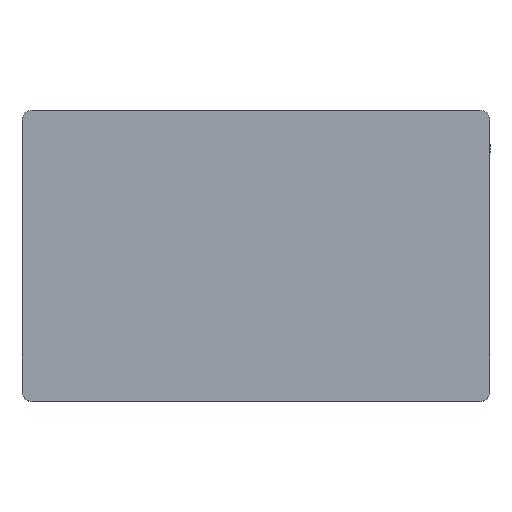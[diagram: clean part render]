
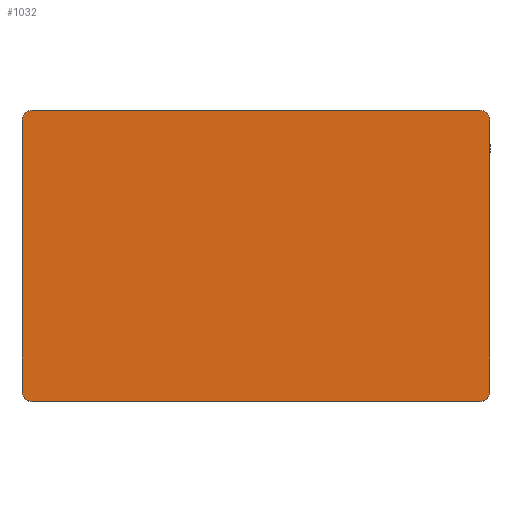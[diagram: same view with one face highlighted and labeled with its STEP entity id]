
A CAD part, top view. The second image highlights one B-rep face of the part: STEP entity #1032.
In plain terms, the highlighted planar face has unit normal (0, 0, 1).
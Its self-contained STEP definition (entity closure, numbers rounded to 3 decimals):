
#897=CARTESIAN_POINT('',(22.5,-13.0,16.5));
#898=VERTEX_POINT('',#897);
#899=CARTESIAN_POINT('',(21.5,-14.,16.5));
#900=VERTEX_POINT('',#899);
#901=CARTESIAN_POINT('',(21.5,-13.0,16.5));
#902=DIRECTION('',(0.0,0.0,-1.0));
#903=DIRECTION('',(0.707,-0.707,0.0));
#904=AXIS2_PLACEMENT_3D('',#901,#902,#903);
#905=CIRCLE('',#904,1.0);
#906=EDGE_CURVE('',#898,#900,#905,.T.);
#940=CARTESIAN_POINT('',(-21.5,-14.,16.5));
#941=VERTEX_POINT('',#940);
#942=CARTESIAN_POINT('',(-21.5,-14.,16.5));
#943=DIRECTION('',(1.0,0.0,0.0));
#944=VECTOR('',#943,43.0);
#945=LINE('',#942,#944);
#946=EDGE_CURVE('',#941,#900,#945,.T.);
#974=CARTESIAN_POINT('',(0.0,0.,16.5));
#975=DIRECTION('',(0.0,0.0,1.0));
#976=DIRECTION('',(1.0,0.0,0.0));
#977=AXIS2_PLACEMENT_3D('',#974,#975,#976);
#978=PLANE('',#977);
#979=ORIENTED_EDGE('',*,*,#906,.F.);
#980=CARTESIAN_POINT('',(22.5,13.,16.5));
#981=VERTEX_POINT('',#980);
#982=CARTESIAN_POINT('',(22.5,-13.0,16.5));
#983=DIRECTION('',(0.0,1.0,0.0));
#984=VECTOR('',#983,26.);
#985=LINE('',#982,#984);
#986=EDGE_CURVE('',#898,#981,#985,.T.);
#987=ORIENTED_EDGE('',*,*,#986,.T.);
#988=CARTESIAN_POINT('',(21.5,14.,16.5));
#989=VERTEX_POINT('',#988);
#990=CARTESIAN_POINT('',(21.5,13.,16.5));
#991=DIRECTION('',(0.0,0.0,-1.0));
#992=DIRECTION('',(0.707,0.707,0.0));
#993=AXIS2_PLACEMENT_3D('',#990,#991,#992);
#994=CIRCLE('',#993,1.0);
#995=EDGE_CURVE('',#989,#981,#994,.T.);
#996=ORIENTED_EDGE('',*,*,#995,.F.);
#997=CARTESIAN_POINT('',(-21.5,14.,16.5));
#998=VERTEX_POINT('',#997);
#999=CARTESIAN_POINT('',(21.5,14.,16.5));
#1000=DIRECTION('',(-1.0,0.0,0.0));
#1001=VECTOR('',#1000,43.);
#1002=LINE('',#999,#1001);
#1003=EDGE_CURVE('',#989,#998,#1002,.T.);
#1004=ORIENTED_EDGE('',*,*,#1003,.T.);
#1005=CARTESIAN_POINT('',(-22.5,13.0,16.5));
#1006=VERTEX_POINT('',#1005);
#1007=CARTESIAN_POINT('',(-21.5,13.0,16.5));
#1008=DIRECTION('',(0.0,0.0,-1.0));
#1009=DIRECTION('',(-0.707,0.707,0.0));
#1010=AXIS2_PLACEMENT_3D('',#1007,#1008,#1009);
#1011=CIRCLE('',#1010,1.0);
#1012=EDGE_CURVE('',#1006,#998,#1011,.T.);
#1013=ORIENTED_EDGE('',*,*,#1012,.F.);
#1014=CARTESIAN_POINT('',(-22.5,-13.0,16.5));
#1015=VERTEX_POINT('',#1014);
#1016=CARTESIAN_POINT('',(-22.5,13.,16.5));
#1017=DIRECTION('',(0.0,-1.0,0.0));
#1018=VECTOR('',#1017,26.0);
#1019=LINE('',#1016,#1018);
#1020=EDGE_CURVE('',#1006,#1015,#1019,.T.);
#1021=ORIENTED_EDGE('',*,*,#1020,.T.);
#1022=CARTESIAN_POINT('',(-21.5,-13.0,16.5));
#1023=DIRECTION('',(0.0,0.0,-1.0));
#1024=DIRECTION('',(-0.707,-0.707,0.0));
#1025=AXIS2_PLACEMENT_3D('',#1022,#1023,#1024);
#1026=CIRCLE('',#1025,1.0);
#1027=EDGE_CURVE('',#941,#1015,#1026,.T.);
#1028=ORIENTED_EDGE('',*,*,#1027,.F.);
#1029=ORIENTED_EDGE('',*,*,#946,.T.);
#1030=EDGE_LOOP('',(#979,#987,#996,#1004,#1013,#1021,#1028,#1029));
#1031=FACE_OUTER_BOUND('',#1030,.T.);
#1032=ADVANCED_FACE('',(#1031),#978,.T.);
